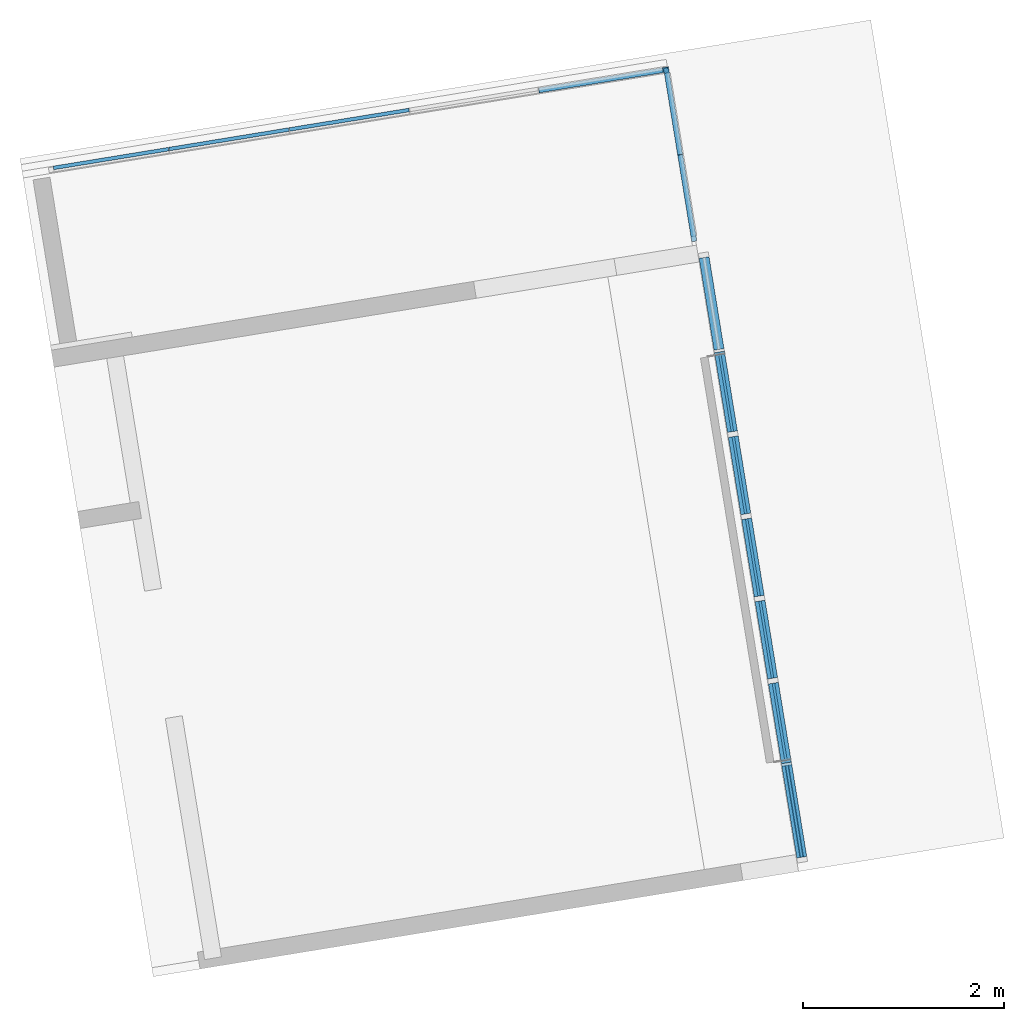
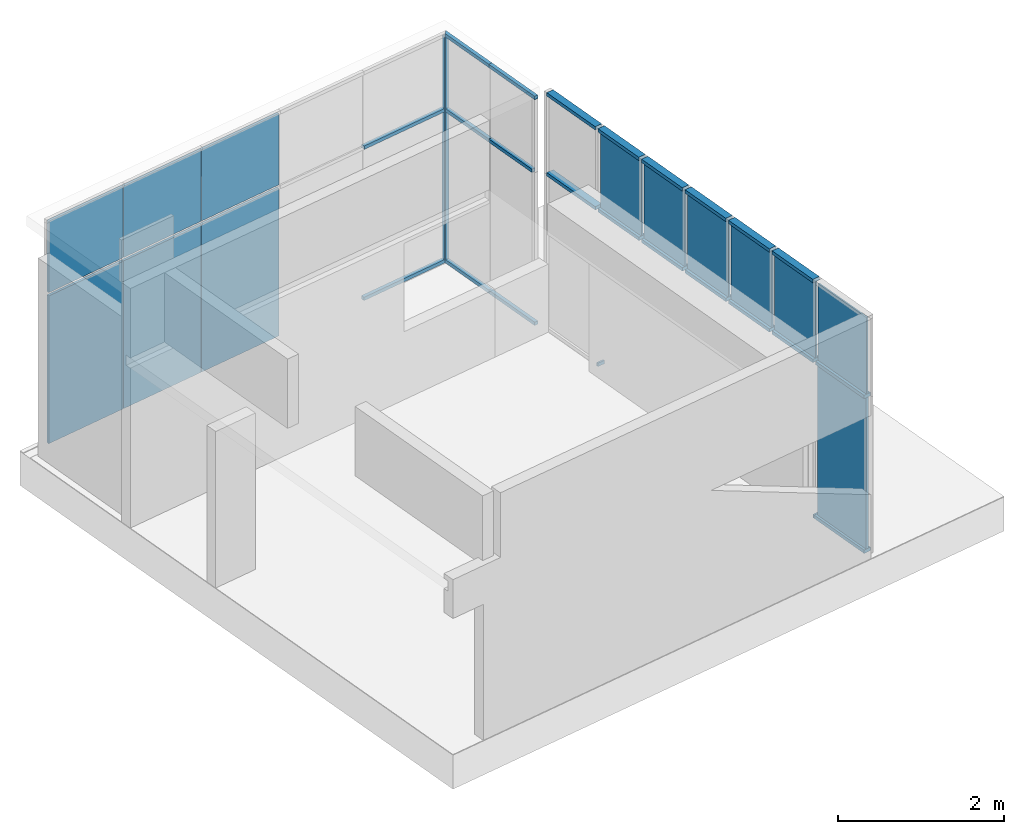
# One storey, part 11 of 13: 28 members, 13 plates, 3 elements without a shape of their own.
"""IFC2X3 building model written with IfcOpenShell, lengths in millimetres."""

from ifc_helpers import new_model, entity, si_unit, converted_unit, derived_unit, direction, frame, frame_2d, origin, origin_with_axes, origin_2d_with_axis, place, context, subcontext, project, spatial, polyline, rectangle, outline, extrude, source, transform, mapped, material, type_object, element, aggregate, save


model = new_model("IFC2X3")

# Units and contexts
plan_context = context("Plan", 3, precision=1e-05, world=origin_with_axes())
model_context = context("Model", 3, precision=0.01, world=origin(), true_north=direction((6.12323399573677e-17, 1.0)))
body_context = subcontext(model_context, "Body", "Model", "MODEL_VIEW")
ifc_project = project(units=[converted_unit("PLANEANGLEUNIT", "DEGREE", entity("IfcPositiveLengthMeasure", 0.0174532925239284), si_unit("PLANEANGLEUNIT", "RADIAN"), dimensions=[0, 0, 0, 0, 0, 0, 0]), si_unit("AREAUNIT", "SQUARE_METRE"), si_unit("LENGTHUNIT", "METRE", prefix="MILLI"), si_unit("MASSUNIT", "GRAM", prefix="KILO"), si_unit("POWERUNIT", "WATT"), si_unit("PRESSUREUNIT", "PASCAL", prefix="KILO"), si_unit("FORCEUNIT", "NEWTON", prefix="KILO"), si_unit("ELECTRICVOLTAGEUNIT", "VOLT"), si_unit("ELECTRICCURRENTUNIT", "AMPERE"), si_unit("THERMODYNAMICTEMPERATUREUNIT", "DEGREE_CELSIUS"), si_unit("TIMEUNIT", "SECOND"), si_unit("VOLUMEUNIT", "CUBIC_METRE"), derived_unit("LINEARVELOCITYUNIT", [(si_unit("LENGTHUNIT", "METRE"), 1), (si_unit("TIMEUNIT", "SECOND"), -1)]), derived_unit("VOLUMETRICFLOWRATEUNIT", [(si_unit("VOLUMEUNIT", "CUBIC_METRE"), 1), (si_unit("TIMEUNIT", "SECOND"), -1)]), derived_unit("THERMALTRANSMITTANCEUNIT", [(si_unit("POWERUNIT", "WATT"), 1), (si_unit("THERMODYNAMICTEMPERATUREUNIT", "KELVIN"), -1), (si_unit("AREAUNIT", "SQUARE_METRE"), -1)]), derived_unit("SOUNDPRESSUREUNIT", [(si_unit("PRESSUREUNIT", "PASCAL"), 1)])], contexts=[model_context, plan_context])

# Site, building, storey
site_placement = place(None, frame((-305029.896016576, -232111.759730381, 0.0), z_axis=(0.0, 0.0, 1.0), x_axis=(-0.160806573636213, 0.986985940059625, 0.0)))
site = spatial("IfcSite", under=ifc_project, at=site_placement, Name="Default", CompositionType="ELEMENT")
building_placement = place(site_placement, frame((0.0, 0.0, 0.0), z_axis=(0.0, 0.0, 1.0), x_axis=(1.0, -2.77555756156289e-17, 0.0)))
building = spatial("IfcBuilding", under=site, at=building_placement, Name="br001-a-200-1-0001", CompositionType="ELEMENT")
storey_placement = place(building_placement, frame((0.0, 0.0, 51360.0000000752), z_axis=(0.0, 0.0, 1.0), x_axis=(1.0, -2.77555756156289e-17, 0.0)))
storey = spatial("IfcBuildingStorey", under=building, at=storey_placement, Name="H01-Nivå D+0,36", CompositionType="ELEMENT", Elevation=51360.0000000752)

# Curtain wall, members
curtain_wall_type_1 = type_object("IfcCurtainWallType", Name="Curtain Wall:NSW Innvendig glassfelt", PredefinedType="NOTDEFINED")
curtain_wall_1_placement = place(storey_placement, frame((0.0, 0.0, -51360.0000000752), z_axis=(0.0, 0.0, 1.0), x_axis=(1.0, -2.77555756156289e-17, 0.0)))
curtain_wall_1 = element("IfcCurtainWall", 1, at=curtain_wall_1_placement, inside=storey, type_object=curtain_wall_type_1, Name="Curtain Wall:NSW Innvendig glassfelt", ObjectType="Curtain Wall:NSW Innvendig glassfelt")
ifc_material_1 = material(Name="Laminate - Ivory, Matte")
member_type_1 = type_object("IfcMemberType", Name="Rectangular Mullion:NSW Innvendig spross 50x100 mm", PredefinedType="MULLION", material=ifc_material_1)
shared_shape_1 = source(origin(), body_context, "Body", "SweptSolid", [
    extrude(rectangle(XDim=50.0, YDim=100.0, at=frame_2d((0.0, -7.105427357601e-15), x_axis=(1.0, 0.0))), frame((-25.0, 0.0, -925.0), z_axis=(0.0, 0.0, 1.0), x_axis=(-1.0, 0.0, 0.0)), (0.0, 0.0, 1.0), 925.000000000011),
])
member_1_placement = place(curtain_wall_1_placement, frame((1158338.59858442, -711141.378367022, 54860.0), z_axis=(1.0, -2.77555756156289e-17, 0.0), x_axis=(0.0, 0.0, 1.0)))
member_1 = element("IfcMember", 2, at=member_1_placement, type_object=member_type_1, material=ifc_material_1, Name="Rectangular Mullion:NSW Innvendig spross 50x100 mm", ObjectType="Rectangular Mullion:NSW Innvendig spross 50x100 mm", context=body_context, shape_type="MappedRepresentation", body=[
    mapped(shared_shape_1, transform((0.0, 0.0, 0.0), scale=1.0)),
])
member_type_2 = type_object("IfcMemberType", Name="Rectangular Mullion:NSW Innvendig spross 50x100 mm", PredefinedType="MULLION", material=ifc_material_1)
shared_shape_2 = source(origin(), body_context, "Body", "SweptSolid", [
    extrude(rectangle(XDim=50.0, YDim=100.0, at=origin_2d_with_axis()), frame((-25.0, 0.0, -778.0), z_axis=(0.0, 0.0, 1.0), x_axis=(-1.0, 0.0, 0.0)), (0.0, 0.0, 1.0), 778.000000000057),
])
member_2_placement = place(curtain_wall_1_placement, frame((1157363.59858442, -711141.378367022, 54860.0), z_axis=(1.0, -2.77555756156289e-17, 0.0), x_axis=(0.0, 0.0, 1.0)))
member_2 = element("IfcMember", 3, at=member_2_placement, type_object=member_type_2, material=ifc_material_1, Name="Rectangular Mullion:NSW Innvendig spross 50x100 mm", ObjectType="Rectangular Mullion:NSW Innvendig spross 50x100 mm", context=body_context, shape_type="MappedRepresentation", body=[
    mapped(shared_shape_2, transform((0.0, 0.0, 0.0), scale=1.0)),
])
member_3_placement = place(curtain_wall_1_placement, frame((1154051.59858442, -711141.378367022, 54860.0), z_axis=(1.0, -2.77555756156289e-17, 0.0), x_axis=(0.0, 0.0, 1.0)))
member_3 = element("IfcMember", 4, at=member_3_placement, type_object=member_type_2, material=ifc_material_1, Name="Rectangular Mullion:NSW Innvendig spross 50x100 mm", ObjectType="Rectangular Mullion:NSW Innvendig spross 50x100 mm", context=body_context, shape_type="MappedRepresentation", body=[
    mapped(shared_shape_2, transform((0.0, 0.0, 0.0), scale=1.0)),
])
member_4_placement = place(curtain_wall_1_placement, frame((1154879.59858442, -711141.378367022, 54860.0), z_axis=(1.0, -2.77555756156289e-17, 0.0), x_axis=(0.0, 0.0, 1.0)))
member_4 = element("IfcMember", 5, at=member_4_placement, type_object=member_type_2, material=ifc_material_1, Name="Rectangular Mullion:NSW Innvendig spross 50x100 mm", ObjectType="Rectangular Mullion:NSW Innvendig spross 50x100 mm", context=body_context, shape_type="MappedRepresentation", body=[
    mapped(shared_shape_2, transform((0.0, 0.0, 0.0), scale=1.0)),
])
member_5_placement = place(curtain_wall_1_placement, frame((1155707.59858442, -711141.378367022, 54860.0), z_axis=(1.0, -2.77555756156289e-17, 0.0), x_axis=(0.0, 0.0, 1.0)))
member_5 = element("IfcMember", 6, at=member_5_placement, type_object=member_type_2, material=ifc_material_1, Name="Rectangular Mullion:NSW Innvendig spross 50x100 mm", ObjectType="Rectangular Mullion:NSW Innvendig spross 50x100 mm", context=body_context, shape_type="MappedRepresentation", body=[
    mapped(shared_shape_2, transform((0.0, 0.0, 0.0), scale=1.0)),
])
member_6_placement = place(curtain_wall_1_placement, frame((1156535.59858442, -711141.378367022, 54860.0), z_axis=(1.0, -2.77555756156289e-17, 0.0), x_axis=(0.0, 0.0, 1.0)))
member_6 = element("IfcMember", 7, at=member_6_placement, type_object=member_type_2, material=ifc_material_1, Name="Rectangular Mullion:NSW Innvendig spross 50x100 mm", ObjectType="Rectangular Mullion:NSW Innvendig spross 50x100 mm", context=body_context, shape_type="MappedRepresentation", body=[
    mapped(shared_shape_2, transform((0.0, 0.0, 0.0), scale=1.0)),
])
member_type_3 = type_object("IfcMemberType", Name="Rectangular Mullion:NSW Innvendig spross 50x100 mm", PredefinedType="MULLION", material=ifc_material_1)
shared_shape_3 = source(origin(), body_context, "Body", "SweptSolid", [
    extrude(rectangle(XDim=50.0, YDim=100.0, at=origin_2d_with_axis()), frame((0.0, 0.0, -925.0), z_axis=(0.0, 0.0, 1.0), x_axis=(-1.0, 0.0, 0.0)), (0.0, 0.0, 1.0), 925.000000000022),
])
member_7_placement = place(curtain_wall_1_placement, frame((1153223.59858442, -711141.378367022, 53660.0), z_axis=(1.0, -2.77555756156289e-17, 0.0), x_axis=(0.0, 0.0, 1.0)))
member_7 = element("IfcMember", 8, at=member_7_placement, type_object=member_type_3, material=ifc_material_1, Name="Rectangular Mullion:NSW Innvendig spross 50x100 mm", ObjectType="Rectangular Mullion:NSW Innvendig spross 50x100 mm", context=body_context, shape_type="MappedRepresentation", body=[
    mapped(shared_shape_3, transform((0.0, 0.0, 0.0), scale=1.0)),
])
member_8_placement = place(curtain_wall_1_placement, frame((1158338.59858442, -711141.378367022, 53660.0), z_axis=(1.0, -2.77555756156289e-17, 0.0), x_axis=(0.0, 0.0, 1.0)))
member_8 = element("IfcMember", 9, at=member_8_placement, type_object=member_type_3, material=ifc_material_1, Name="Rectangular Mullion:NSW Innvendig spross 50x100 mm", ObjectType="Rectangular Mullion:NSW Innvendig spross 50x100 mm", context=body_context, shape_type="MappedRepresentation", body=[
    mapped(shared_shape_3, transform((0.0, 0.0, 0.0), scale=1.0)),
])
member_type_4 = type_object("IfcMemberType", Name="Rectangular Mullion:NSW Innvendig spross 50x100 mm", PredefinedType="MULLION", material=ifc_material_1)
shared_shape_4 = source(origin(), body_context, "Body", "SweptSolid", [
    extrude(rectangle(XDim=50.0, YDim=100.0, at=frame_2d((0.0, -7.105427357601e-15), x_axis=(1.0, 0.0))), frame((0.0, 0.0, -778.0), z_axis=(0.0, 0.0, 1.0), x_axis=(-1.0, 0.0, 0.0)), (0.0, 0.0, 1.0), 778.000000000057),
])
member_9_placement = place(curtain_wall_1_placement, frame((1154051.59858442, -711141.378367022, 53660.0), z_axis=(1.0, -2.77555756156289e-17, 0.0), x_axis=(0.0, 0.0, 1.0)))
member_9 = element("IfcMember", 10, at=member_9_placement, type_object=member_type_4, material=ifc_material_1, Name="Rectangular Mullion:NSW Innvendig spross 50x100 mm", ObjectType="Rectangular Mullion:NSW Innvendig spross 50x100 mm", context=body_context, shape_type="MappedRepresentation", body=[
    mapped(shared_shape_4, transform((0.0, 0.0, 0.0), scale=1.0)),
])
member_10_placement = place(curtain_wall_1_placement, frame((1154879.59858442, -711141.378367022, 53660.0), z_axis=(1.0, -2.77555756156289e-17, 0.0), x_axis=(0.0, 0.0, 1.0)))
member_10 = element("IfcMember", 11, at=member_10_placement, type_object=member_type_4, material=ifc_material_1, Name="Rectangular Mullion:NSW Innvendig spross 50x100 mm", ObjectType="Rectangular Mullion:NSW Innvendig spross 50x100 mm", context=body_context, shape_type="MappedRepresentation", body=[
    mapped(shared_shape_4, transform((0.0, 0.0, 0.0), scale=1.0)),
])
member_11_placement = place(curtain_wall_1_placement, frame((1155707.59858442, -711141.378367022, 53660.0), z_axis=(1.0, -2.77555756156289e-17, 0.0), x_axis=(0.0, 0.0, 1.0)))
member_11 = element("IfcMember", 12, at=member_11_placement, type_object=member_type_4, material=ifc_material_1, Name="Rectangular Mullion:NSW Innvendig spross 50x100 mm", ObjectType="Rectangular Mullion:NSW Innvendig spross 50x100 mm", context=body_context, shape_type="MappedRepresentation", body=[
    mapped(shared_shape_4, transform((0.0, 0.0, 0.0), scale=1.0)),
])
member_12_placement = place(curtain_wall_1_placement, frame((1156535.59858442, -711141.378367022, 53660.0), z_axis=(1.0, -2.77555756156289e-17, 0.0), x_axis=(0.0, 0.0, 1.0)))
member_12 = element("IfcMember", 13, at=member_12_placement, type_object=member_type_4, material=ifc_material_1, Name="Rectangular Mullion:NSW Innvendig spross 50x100 mm", ObjectType="Rectangular Mullion:NSW Innvendig spross 50x100 mm", context=body_context, shape_type="MappedRepresentation", body=[
    mapped(shared_shape_4, transform((0.0, 0.0, 0.0), scale=1.0)),
])
member_13_placement = place(curtain_wall_1_placement, frame((1157363.59858442, -711141.378367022, 53660.0), z_axis=(1.0, -2.77555756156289e-17, 0.0), x_axis=(0.0, 0.0, 1.0)))
member_13 = element("IfcMember", 14, at=member_13_placement, type_object=member_type_4, material=ifc_material_1, Name="Rectangular Mullion:NSW Innvendig spross 50x100 mm", ObjectType="Rectangular Mullion:NSW Innvendig spross 50x100 mm", context=body_context, shape_type="MappedRepresentation", body=[
    mapped(shared_shape_4, transform((0.0, 0.0, 0.0), scale=1.0)),
])
member_type_5 = type_object("IfcMemberType", Name="Rectangular Mullion:NSW Innvendig spross 50x100 mm", PredefinedType="MULLION", material=ifc_material_1)
shared_shape_5 = source(origin(), body_context, "Body", "SweptSolid", [
    extrude(rectangle(XDim=50.0, YDim=100.0, at=frame_2d((0.0, 3.5527136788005e-15), x_axis=(1.0, 0.0))), frame((-25.0, 0.0, -950.0), z_axis=(0.0, 0.0, 1.0), x_axis=(-1.0, 0.0, 0.0)), (0.0, 0.0, 1.0), 950.00000000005),
])
member_14_placement = place(curtain_wall_1_placement, frame((1152298.59858442, -711141.378367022, 51360.0), z_axis=(-1.0, 2.77555756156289e-17, 0.0), x_axis=(0.0, 0.0, -1.0)))
member_14 = element("IfcMember", 15, at=member_14_placement, type_object=member_type_5, material=ifc_material_1, Name="Rectangular Mullion:NSW Innvendig spross 50x100 mm", ObjectType="Rectangular Mullion:NSW Innvendig spross 50x100 mm", context=body_context, shape_type="MappedRepresentation", body=[
    mapped(shared_shape_5, transform((0.0, 0.0, 0.0), scale=1.0)),
])
member_type_6 = type_object("IfcMemberType", Name="Rectangular Mullion:NSW Innvendig spross 50x100 mm", PredefinedType="MULLION", material=ifc_material_1)
shared_shape_6 = source(origin(), body_context, "Body", "SweptSolid", [
    extrude(rectangle(XDim=50.0, YDim=100.0, at=frame_2d((0.0, 3.5527136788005e-15), x_axis=(1.0, 0.0))), frame((-25.0, 0.0, -25.0), z_axis=(0.0, 0.0, 1.0), x_axis=(-1.0, 0.0, 0.0)), (0.0, 0.0, 1.0), 25.0000000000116),
])
member_15_placement = place(curtain_wall_1_placement, frame((1157363.59858442, -711141.378367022, 51360.0), z_axis=(-1.0, 2.77555756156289e-17, 0.0), x_axis=(0.0, 0.0, -1.0)))
member_15 = element("IfcMember", 16, at=member_15_placement, type_object=member_type_6, material=ifc_material_1, Name="Rectangular Mullion:NSW Innvendig spross 50x100 mm", ObjectType="Rectangular Mullion:NSW Innvendig spross 50x100 mm", context=body_context, shape_type="MappedRepresentation", body=[
    mapped(shared_shape_6, transform((0.0, 0.0, 0.0), scale=1.0)),
])
member_type_7 = type_object("IfcMemberType", Name="Rectangular Mullion:NSW Innvendig spross 50x100 mm", PredefinedType="MULLION", material=ifc_material_1)
member_16_placement = place(curtain_wall_1_placement, frame((1153248.59858442, -711141.378367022, 51360.0), z_axis=(-1.0, 2.77555756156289e-17, 0.0), x_axis=(0.0, 0.0, -1.0)))
member_16 = element("IfcMember", 17, at=member_16_placement, type_object=member_type_7, material=ifc_material_1, Name="Rectangular Mullion:NSW Innvendig spross 50x100 mm", ObjectType="Rectangular Mullion:NSW Innvendig spross 50x100 mm", context=body_context, shape_type="MappedRepresentation", body=[
    mapped(shared_shape_6, transform((0.0, 0.0, 0.0), scale=1.0)),
])

# Curtain wall, member
curtain_wall_type_2 = type_object("IfcCurtainWallType", Name="Curtain Wall:A243 Innvendig glassvegg", PredefinedType="NOTDEFINED")
curtain_wall_2_placement = place(storey_placement, frame((0.0, 0.0, -51360.0000000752), z_axis=(0.0, 0.0, 1.0), x_axis=(1.0, -2.77555756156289e-17, 0.0)))
curtain_wall_2 = element("IfcCurtainWall", 18, at=curtain_wall_2_placement, inside=storey, type_object=curtain_wall_type_2, Name="Curtain Wall:A243 Innvendig glassvegg", ObjectType="Curtain Wall:A243 Innvendig glassvegg")
ifc_material_2 = material(Name="Metal - Aluminium")
member_type_8 = type_object("IfcMemberType", Name="Rectangular Mullion:NSW 50x50 Add on", PredefinedType="MULLION", material=ifc_material_2)
shared_shape_7 = source(origin(), body_context, "Body", "SweptSolid", [
    extrude(rectangle(XDim=50.0, YDim=50.0, at=origin_2d_with_axis()), frame((-25.0, 15.0, -1073.3333333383), z_axis=(0.0, 0.0, 1.0), x_axis=(-1.0, 0.0, 0.0)), (0.0, 0.0, 1.0), 1073.3333333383),
])
member_17_placement = place(curtain_wall_2_placement, frame((1160258.59858442, -711086.378367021, 53606.6666667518), z_axis=(0.0, 0.0, -1.0), x_axis=(-2.77555756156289e-17, -1.0, 0.0)))
member_17 = element("IfcMember", 19, at=member_17_placement, type_object=member_type_8, material=ifc_material_2, Name="Rectangular Mullion:NSW 50x50 Add on", ObjectType="Rectangular Mullion:NSW 50x50 Add on", context=body_context, shape_type="MappedRepresentation", body=[
    mapped(shared_shape_7, transform((0.0, 0.0, 0.0), scale=1.0)),
])

curtain_wall_3_placement = place(storey_placement, frame((0.0, 0.0, -51360.0000000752), z_axis=(0.0, 0.0, 1.0), x_axis=(1.0, -2.77555756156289e-17, 0.0)))
curtain_wall_3 = element("IfcCurtainWall", 20, at=curtain_wall_3_placement, inside=storey, type_object=curtain_wall_type_2, Name="Curtain Wall:A243 Innvendig glassvegg", ObjectType="Curtain Wall:A243 Innvendig glassvegg")
member_type_9 = type_object("IfcMemberType", Name="Rectangular Mullion:NSW 50x50 Add on", PredefinedType="MULLION", material=ifc_material_2)
member_18_placement = place(curtain_wall_3_placement, frame((1160258.59858442, -711086.378367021, 54680.0000000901), z_axis=(0.0, 0.0, 1.0), x_axis=(1.0, -2.77555756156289e-17, 0.0)))
member_18 = element("IfcMember", 21, at=member_18_placement, type_object=member_type_9, material=ifc_material_2, Name="Rectangular Mullion:NSW 50x50 Add on", ObjectType="Rectangular Mullion:NSW 50x50 Add on", context=body_context, shape_type="MappedRepresentation", body=[
    mapped(shared_shape_7, transform((0.0, 0.0, 0.0), scale=1.0)),
])

# Member
member_type_10 = type_object("IfcMemberType", Name="Rectangular Mullion:NSW 50x50 Add on", PredefinedType="MULLION", material=ifc_material_2)
shared_shape_8 = source(origin(), body_context, "Body", "SweptSolid", [
    extrude(rectangle(XDim=50.0, YDim=50.0, at=origin_2d_with_axis()), frame((-25.0, 15.0, -2196.66666667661), z_axis=(0.0, 0.0, 1.0), x_axis=(-1.0, 0.0, 0.0)), (0.0, 0.0, 1.0), 2196.6666666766),
])
member_19_placement = place(curtain_wall_2_placement, frame((1160258.59858442, -711086.378367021, 51410.0000000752), z_axis=(0.0, 0.0, -1.0), x_axis=(-2.77555756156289e-17, -1.0, 0.0)))
member_19 = element("IfcMember", 22, at=member_19_placement, type_object=member_type_10, material=ifc_material_2, Name="Rectangular Mullion:NSW 50x50 Add on", ObjectType="Rectangular Mullion:NSW 50x50 Add on", context=body_context, shape_type="MappedRepresentation", body=[
    mapped(shared_shape_8, transform((0.0, 0.0, 0.0), scale=1.0)),
])

member_type_11 = type_object("IfcMemberType", Name="Rectangular Mullion:NSW 50x50 Add on", PredefinedType="MULLION", material=ifc_material_2)
shared_shape_9 = source(origin(), body_context, "Body", "SweptSolid", [
    extrude(outline(polyline([(-642.500000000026, -25.0), (667.500000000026, -25.0), (617.500000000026, 25.0), (-642.500000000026, 25.0), (-642.500000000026, -25.0)])), frame((-50.0, 15.0, -642.500000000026), z_axis=(1.0, 0.0, 0.0), x_axis=(0.0, 0.0, -1.0)), (0.0, 0.0, 1.0), 50.0),
])
member_20_placement = place(curtain_wall_2_placement, frame((1160258.59858442, -709786.378367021, 51360.0000000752), z_axis=(2.77555756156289e-17, 1.0, 0.0), x_axis=(0.0, 0.0, -1.0)))
member_20 = element("IfcMember", 23, at=member_20_placement, type_object=member_type_11, material=ifc_material_2, Name="Rectangular Mullion:NSW 50x50 Add on", ObjectType="Rectangular Mullion:NSW 50x50 Add on", context=body_context, shape_type="MappedRepresentation", body=[
    mapped(shared_shape_9, transform((0.0, 0.0, 0.0), scale=1.0)),
])

member_type_12 = type_object("IfcMemberType", Name="Rectangular Mullion:NSW 50x50 Add on", PredefinedType="MULLION", material=ifc_material_2)
shared_shape_10 = source(origin(), body_context, "Body", "SweptSolid", [
    extrude(rectangle(XDim=50.0, YDim=50.0, at=origin_2d_with_axis()), frame((-25.0, 15.0, -2196.6666666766), z_axis=(0.0, 0.0, 1.0), x_axis=(-1.0, 0.0, 0.0)), (0.0, 0.0, 1.0), 2196.6666666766),
])
member_21_placement = place(curtain_wall_3_placement, frame((1160258.59858442, -711086.378367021, 53606.6666667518), z_axis=(0.0, 0.0, 1.0), x_axis=(1.0, -2.77555756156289e-17, 0.0)))
member_21 = element("IfcMember", 24, at=member_21_placement, type_object=member_type_12, material=ifc_material_2, Name="Rectangular Mullion:NSW 50x50 Add on", ObjectType="Rectangular Mullion:NSW 50x50 Add on", context=body_context, shape_type="MappedRepresentation", body=[
    mapped(shared_shape_10, transform((0.0, 0.0, 0.0), scale=1.0)),
])

member_type_13 = type_object("IfcMemberType", Name="Rectangular Mullion:NSW 50x50 Add on", PredefinedType="MULLION", material=ifc_material_2)
shared_shape_11 = source(origin(), body_context, "Body", "SweptSolid", [
    extrude(rectangle(XDim=50.0, YDim=50.0, at=origin_2d_with_axis()), frame((0.0, 15.0, -1246.70000000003), z_axis=(0.0, 0.0, 1.0), x_axis=(-1.0, 0.0, 0.0)), (0.0, 0.0, 1.0), 1246.70000000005),
])
member_22_placement = place(curtain_wall_2_placement, frame((1160258.59858442, -711036.378367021, 53606.6666667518), z_axis=(-2.77555756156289e-17, -1.0, 0.0), x_axis=(0.0, 0.0, 1.0)))
member_22 = element("IfcMember", 25, at=member_22_placement, type_object=member_type_13, material=ifc_material_2, Name="Rectangular Mullion:NSW 50x50 Add on", ObjectType="Rectangular Mullion:NSW 50x50 Add on", context=body_context, shape_type="MappedRepresentation", body=[
    mapped(shared_shape_11, transform((0.0, 0.0, 0.0), scale=1.0)),
])

member_type_14 = type_object("IfcMemberType", Name="Rectangular Mullion:NSW 50x50 Add on", PredefinedType="MULLION", material=ifc_material_2)
shared_shape_12 = source(origin(), body_context, "Body", "SweptSolid", [
    extrude(outline(polyline([(-453.750000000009, -25.0), (428.750000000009, -25.0), (428.750000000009, 25.0), (-403.750000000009, 25.0), (-453.750000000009, -25.0)])), frame((-50.0, 15.0, -443.750000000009), z_axis=(1.0, 0.0, 0.0), x_axis=(0.0, 0.0, -1.0)), (0.0, 0.0, 1.0), 50.0),
])
member_23_placement = place(curtain_wall_3_placement, frame((1160258.59858442, -711086.378367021, 51360.0000000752), z_axis=(1.0, -2.77555756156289e-17, 0.0), x_axis=(0.0, 0.0, -1.0)))
member_23 = element("IfcMember", 26, at=member_23_placement, type_object=member_type_14, material=ifc_material_2, Name="Rectangular Mullion:NSW 50x50 Add on", ObjectType="Rectangular Mullion:NSW 50x50 Add on", context=body_context, shape_type="MappedRepresentation", body=[
    mapped(shared_shape_12, transform((0.0, 0.0, 0.0), scale=1.0)),
])

member_type_15 = type_object("IfcMemberType", Name="Rectangular Mullion:NSW 50x50 Add on", PredefinedType="MULLION", material=ifc_material_2)
shared_shape_13 = source(origin(), body_context, "Body", "SweptSolid", [
    extrude(rectangle(XDim=50.0, YDim=50.0, at=origin_2d_with_axis()), frame((-25.0, 15.0, -872.500000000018), z_axis=(0.0, 0.0, 1.0), x_axis=(-1.0, 0.0, 0.0)), (0.0, 0.0, 1.0), 872.500000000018),
])
member_24_placement = place(curtain_wall_3_placement, frame((1158513.59858442, -711086.378367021, 54730.0000000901), z_axis=(-1.0, 2.77555756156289e-17, 0.0), x_axis=(0.0, 0.0, 1.0)))
member_24 = element("IfcMember", 27, at=member_24_placement, type_object=member_type_15, material=ifc_material_2, Name="Rectangular Mullion:NSW 50x50 Add on", ObjectType="Rectangular Mullion:NSW 50x50 Add on", context=body_context, shape_type="MappedRepresentation", body=[
    mapped(shared_shape_13, transform((0.0, 0.0, 0.0), scale=1.0)),
])

member_type_16 = type_object("IfcMemberType", Name="Rectangular Mullion:NSW 50x50 Add on", PredefinedType="MULLION", material=ifc_material_2)
member_25_placement = place(curtain_wall_3_placement, frame((1159386.09858442, -711086.378367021, 51360.0000000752), z_axis=(1.0, -2.77555756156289e-17, 0.0), x_axis=(0.0, 0.0, -1.0)))
member_25 = element("IfcMember", 28, at=member_25_placement, type_object=member_type_16, material=ifc_material_2, Name="Rectangular Mullion:NSW 50x50 Add on", ObjectType="Rectangular Mullion:NSW 50x50 Add on", context=body_context, shape_type="MappedRepresentation", body=[
    mapped(shared_shape_13, transform((0.0, 0.0, 0.0), scale=1.0)),
])

member_type_17 = type_object("IfcMemberType", Name="Rectangular Mullion:NSW 50x50 Add on", PredefinedType="MULLION", material=ifc_material_2)
shared_shape_14 = source(origin(), body_context, "Body", "SweptSolid", [
    extrude(outline(polyline([(-428.750000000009, -25.0), (453.750000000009, -25.0), (403.750000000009, 25.0), (-428.750000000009, 25.0), (-428.750000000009, -25.0)])), frame((-50.0, 15.0, -428.750000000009), z_axis=(1.0, 0.0, 0.0), x_axis=(0.0, 0.0, -1.0)), (0.0, 0.0, 1.0), 50.0),
])
member_26_placement = place(curtain_wall_3_placement, frame((1159386.09858442, -711086.378367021, 54730.0000000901), z_axis=(-1.0, 2.77555756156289e-17, 0.0), x_axis=(0.0, 0.0, 1.0)))
member_26 = element("IfcMember", 29, at=member_26_placement, type_object=member_type_17, material=ifc_material_2, Name="Rectangular Mullion:NSW 50x50 Add on", ObjectType="Rectangular Mullion:NSW 50x50 Add on", context=body_context, shape_type="MappedRepresentation", body=[
    mapped(shared_shape_14, transform((0.0, 0.0, 0.0), scale=1.0)),
])

member_type_18 = type_object("IfcMemberType", Name="Rectangular Mullion:NSW 50x50 Add on", PredefinedType="MULLION", material=ifc_material_2)
shared_shape_15 = source(origin(), body_context, "Body", "SweptSolid", [
    extrude(rectangle(XDim=50.0, YDim=50.0, at=origin_2d_with_axis()), frame((0.0, 15.0, -819.199999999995), z_axis=(0.0, 0.0, 1.0), x_axis=(-1.0, 0.0, 0.0)), (0.0, 0.0, 1.0), 819.200000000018),
])
member_27_placement = place(curtain_wall_3_placement, frame((1158563.59858442, -711086.378367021, 53606.6666667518), z_axis=(-1.0, 2.77555756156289e-17, 0.0), x_axis=(0.0, 0.0, 1.0)))
member_27 = element("IfcMember", 30, at=member_27_placement, type_object=member_type_18, material=ifc_material_2, Name="Rectangular Mullion:NSW 50x50 Add on", ObjectType="Rectangular Mullion:NSW 50x50 Add on", context=body_context, shape_type="MappedRepresentation", body=[
    mapped(shared_shape_15, transform((0.0, 0.0, 0.0), scale=1.0)),
])

member_28_placement = place(curtain_wall_3_placement, frame((1159389.39858442, -711086.378367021, 53606.6666667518), z_axis=(-1.0, 2.77555756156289e-17, 0.0), x_axis=(0.0, 0.0, 1.0)))
member_28 = element("IfcMember", 31, at=member_28_placement, type_object=member_type_18, material=ifc_material_2, Name="Rectangular Mullion:NSW 50x50 Add on", ObjectType="Rectangular Mullion:NSW 50x50 Add on", context=body_context, shape_type="MappedRepresentation", body=[
    mapped(shared_shape_15, transform((0.0, 0.0, 0.0), scale=1.0)),
])

aggregate(curtain_wall_3, [member_18, member_23, member_24, member_25, member_26, member_21, member_27, member_28])

# Plate
ifc_material_3 = material(Name="_NSW Glass")
plate_type_1 = type_object("IfcPlateType", Name="System Panel:NSW Utvendig glass", PredefinedType="CURTAIN_PANEL", material=ifc_material_3)
shared_shape_16 = source(origin(), body_context, "Body", "SweptSolid", [
    extrude(rectangle(XDim=36.0, YDim=925.000000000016, at=frame_2d((0.0, 1.15107923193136e-11), x_axis=(1.0, 0.0))), frame((0.0, 0.0, 0.0), z_axis=(0.0, 0.0, 1.0), x_axis=(0.0, 1.0, 0.0)), (0.0, 0.0, 1.0), 2225.0),
])
plate_1_placement = place(curtain_wall_1_placement, frame((1152761.09858442, -711141.378367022, 51410.0), z_axis=(0.0, 0.0, 1.0), x_axis=(1.0, -2.77555756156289e-17, 0.0)))
plate_1 = element("IfcPlate", 32, at=plate_1_placement, type_object=plate_type_1, material=ifc_material_3, Name="System Panel:NSW Utvendig glass", ObjectType="System Panel:NSW Utvendig glass", context=body_context, shape_type="MappedRepresentation", body=[
    mapped(shared_shape_16, transform((0.0, 0.0, 0.0), scale=1.0)),
])

ifc_material_4 = material(Name="Metal - Aluminium(KP)")
plate_type_2 = type_object("IfcPlateType", Name="System Panel:Solid panel", PredefinedType="CURTAIN_PANEL", material=ifc_material_4)
shared_shape_17 = source(origin(), body_context, "Body", "SweptSolid", [
    extrude(rectangle(XDim=25.0, YDim=925.000000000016, at=frame_2d((0.0, 1.15107923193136e-11), x_axis=(1.0, 0.0))), frame((0.0, 0.0, 0.0), z_axis=(0.0, 0.0, 1.0), x_axis=(0.0, 1.0, 0.0)), (0.0, 0.0, 1.0), 1125.0),
])
plate_2_placement = place(curtain_wall_1_placement, frame((1152761.09858442, -711141.378367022, 53685.0), z_axis=(0.0, 0.0, 1.0), x_axis=(1.0, -2.77555756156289e-17, 0.0)))
plate_2 = element("IfcPlate", 33, at=plate_2_placement, type_object=plate_type_2, material=ifc_material_4, Name="System Panel:Solid panel", ObjectType="System Panel:Solid panel", context=body_context, shape_type="MappedRepresentation", body=[
    mapped(shared_shape_17, transform((0.0, 0.0, 0.0), scale=1.0)),
])

plate_type_3 = type_object("IfcPlateType", Name="System Panel:Solid panel", PredefinedType="CURTAIN_PANEL", material=ifc_material_4)
shared_shape_18 = source(origin(), body_context, "Body", "SweptSolid", [
    extrude(rectangle(XDim=25.0, YDim=777.999999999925, at=frame_2d((0.0, 5.99129634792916e-11), x_axis=(1.0, 0.0))), frame((0.0, 0.0, 0.0), z_axis=(0.0, 0.0, 1.0), x_axis=(0.0, 1.0, 0.0)), (0.0, 0.0, 1.0), 1125.0),
])
plate_3_placement = place(curtain_wall_1_placement, frame((1153662.59858442, -711141.378367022, 53685.0), z_axis=(0.0, 0.0, 1.0), x_axis=(1.0, -2.77555756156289e-17, 0.0)))
plate_3 = element("IfcPlate", 34, at=plate_3_placement, type_object=plate_type_3, material=ifc_material_4, Name="System Panel:Solid panel", ObjectType="System Panel:Solid panel", context=body_context, shape_type="MappedRepresentation", body=[
    mapped(shared_shape_18, transform((0.0, 0.0, 0.0), scale=1.0)),
])

plate_4_placement = place(curtain_wall_1_placement, frame((1154490.59858442, -711141.378367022, 53685.0), z_axis=(0.0, 0.0, 1.0), x_axis=(1.0, -2.77555756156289e-17, 0.0)))
plate_4 = element("IfcPlate", 35, at=plate_4_placement, type_object=plate_type_3, material=ifc_material_4, Name="System Panel:Solid panel", ObjectType="System Panel:Solid panel", context=body_context, shape_type="MappedRepresentation", body=[
    mapped(shared_shape_18, transform((0.0, 0.0, 0.0), scale=1.0)),
])

plate_5_placement = place(curtain_wall_1_placement, frame((1155318.59858442, -711141.378367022, 53685.0), z_axis=(0.0, 0.0, 1.0), x_axis=(1.0, -2.77555756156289e-17, 0.0)))
plate_5 = element("IfcPlate", 36, at=plate_5_placement, type_object=plate_type_3, material=ifc_material_4, Name="System Panel:Solid panel", ObjectType="System Panel:Solid panel", context=body_context, shape_type="MappedRepresentation", body=[
    mapped(shared_shape_18, transform((0.0, 0.0, 0.0), scale=1.0)),
])

plate_6_placement = place(curtain_wall_1_placement, frame((1156146.59858442, -711141.378367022, 53685.0), z_axis=(0.0, 0.0, 1.0), x_axis=(1.0, -2.77555756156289e-17, 0.0)))
plate_6 = element("IfcPlate", 37, at=plate_6_placement, type_object=plate_type_3, material=ifc_material_4, Name="System Panel:Solid panel", ObjectType="System Panel:Solid panel", context=body_context, shape_type="MappedRepresentation", body=[
    mapped(shared_shape_18, transform((0.0, 0.0, 0.0), scale=1.0)),
])

plate_7_placement = place(curtain_wall_1_placement, frame((1156974.59858442, -711141.378367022, 53685.0), z_axis=(0.0, 0.0, 1.0), x_axis=(1.0, -2.77555756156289e-17, 0.0)))
plate_7 = element("IfcPlate", 38, at=plate_7_placement, type_object=plate_type_3, material=ifc_material_4, Name="System Panel:Solid panel", ObjectType="System Panel:Solid panel", context=body_context, shape_type="MappedRepresentation", body=[
    mapped(shared_shape_18, transform((0.0, 0.0, 0.0), scale=1.0)),
])

aggregate(curtain_wall_1, [member_1, member_2, member_7, member_9, member_8, member_3, member_10, member_4, member_11, member_5, member_12, member_6, member_13, member_14, member_15, member_16, plate_1, plate_2, plate_3, plate_4, plate_5, plate_6, plate_7])

plate_type_4 = type_object("IfcPlateType", Name="System Panel:NSW Utvendig glass", PredefinedType="CURTAIN_PANEL", material=ifc_material_3)
shared_shape_19 = source(origin(), body_context, "Body", "SweptSolid", [
    extrude(rectangle(XDim=36.0, YDim=1158.36666666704, at=origin_2d_with_axis()), frame((0.0, 0.0, 0.0), z_axis=(0.0, 0.0, 1.0), x_axis=(0.0, 1.0, 0.0)), (0.0, 0.0, 1.0), 2171.6666666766),
])
plate_8_placement = place(curtain_wall_2_placement, frame((1160258.59858442, -705480.561700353, 51410.0000000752), z_axis=(0.0, 0.0, 1.0), x_axis=(-2.77555756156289e-17, -1.0, 0.0)))
plate_8 = element("IfcPlate", 39, at=plate_8_placement, type_object=plate_type_4, material=ifc_material_3, Name="System Panel:NSW Utvendig glass", ObjectType="System Panel:NSW Utvendig glass", context=body_context, shape_type="MappedRepresentation", body=[
    mapped(shared_shape_19, transform((0.0, 0.0, 0.0), scale=1.0)),
])

plate_type_5 = type_object("IfcPlateType", Name="System Panel:NSW Utvendig glass", PredefinedType="CURTAIN_PANEL", material=ifc_material_3)
shared_shape_20 = source(origin(), body_context, "Body", "SweptSolid", [
    extrude(rectangle(XDim=36.0, YDim=1205.06666666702, at=origin_2d_with_axis()), frame((0.0, 0.0, 0.0), z_axis=(0.0, 0.0, 1.0), x_axis=(0.0, 1.0, 0.0)), (0.0, 0.0, 1.0), 2171.6666666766),
])
plate_9_placement = place(curtain_wall_2_placement, frame((1160258.59858442, -706668.87836702, 51410.0000000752), z_axis=(0.0, 0.0, 1.0), x_axis=(-2.77555756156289e-17, -1.0, 0.0)))
plate_9 = element("IfcPlate", 40, at=plate_9_placement, type_object=plate_type_5, material=ifc_material_3, Name="System Panel:NSW Utvendig glass", ObjectType="System Panel:NSW Utvendig glass", context=body_context, shape_type="MappedRepresentation", body=[
    mapped(shared_shape_20, transform((0.0, 0.0, 0.0), scale=1.0)),
])

plate_10_placement = place(curtain_wall_2_placement, frame((1160258.59858442, -707880.545033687, 51410.0000000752), z_axis=(0.0, 0.0, 1.0), x_axis=(-2.77555756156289e-17, -1.0, 0.0)))
plate_10 = element("IfcPlate", 41, at=plate_10_placement, type_object=plate_type_5, material=ifc_material_3, Name="System Panel:NSW Utvendig glass", ObjectType="System Panel:NSW Utvendig glass", context=body_context, shape_type="MappedRepresentation", body=[
    mapped(shared_shape_20, transform((0.0, 0.0, 0.0), scale=1.0)),
])

plate_type_6 = type_object("IfcPlateType", Name="System Panel:NSW Utvendig glass", PredefinedType="CURTAIN_PANEL", material=ifc_material_3)
shared_shape_21 = source(origin(), body_context, "Body", "SweptSolid", [
    extrude(rectangle(XDim=36.0, YDim=1158.36666666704, at=origin_2d_with_axis()), frame((0.0, 0.0, 0.0), z_axis=(0.0, 0.0, 1.0), x_axis=(0.0, 1.0, 0.0)), (0.0, 0.0, 1.0), 1048.3333333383),
])
plate_11_placement = place(curtain_wall_2_placement, frame((1160258.59858442, -705480.561700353, 53631.6666667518), z_axis=(0.0, 0.0, 1.0), x_axis=(-2.77555756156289e-17, -1.0, 0.0)))
plate_11 = element("IfcPlate", 42, at=plate_11_placement, type_object=plate_type_6, material=ifc_material_3, Name="System Panel:NSW Utvendig glass", ObjectType="System Panel:NSW Utvendig glass", context=body_context, shape_type="MappedRepresentation", body=[
    mapped(shared_shape_21, transform((0.0, 0.0, 0.0), scale=1.0)),
])

plate_type_7 = type_object("IfcPlateType", Name="System Panel:NSW Utvendig glass", PredefinedType="CURTAIN_PANEL", material=ifc_material_3)
shared_shape_22 = source(origin(), body_context, "Body", "SweptSolid", [
    extrude(rectangle(XDim=36.0, YDim=1205.06666666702, at=origin_2d_with_axis()), frame((0.0, 0.0, 0.0), z_axis=(0.0, 0.0, 1.0), x_axis=(0.0, 1.0, 0.0)), (0.0, 0.0, 1.0), 1048.3333333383),
])
plate_12_placement = place(curtain_wall_2_placement, frame((1160258.59858442, -706668.87836702, 53631.6666667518), z_axis=(0.0, 0.0, 1.0), x_axis=(-2.77555756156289e-17, -1.0, 0.0)))
plate_12 = element("IfcPlate", 43, at=plate_12_placement, type_object=plate_type_7, material=ifc_material_3, Name="System Panel:NSW Utvendig glass", ObjectType="System Panel:NSW Utvendig glass", context=body_context, shape_type="MappedRepresentation", body=[
    mapped(shared_shape_22, transform((0.0, 0.0, 0.0), scale=1.0)),
])

plate_13_placement = place(curtain_wall_2_placement, frame((1160258.59858442, -707880.545033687, 53631.6666667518), z_axis=(0.0, 0.0, 1.0), x_axis=(-2.77555756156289e-17, -1.0, 0.0)))
plate_13 = element("IfcPlate", 44, at=plate_13_placement, type_object=plate_type_7, material=ifc_material_3, Name="System Panel:NSW Utvendig glass", ObjectType="System Panel:NSW Utvendig glass", context=body_context, shape_type="MappedRepresentation", body=[
    mapped(shared_shape_22, transform((0.0, 0.0, 0.0), scale=1.0)),
])

aggregate(curtain_wall_2, [member_19, member_20, member_17, member_22, plate_8, plate_9, plate_10, plate_11, plate_12, plate_13])

save(model, "model.ifc")
